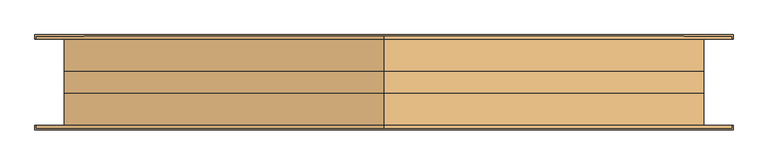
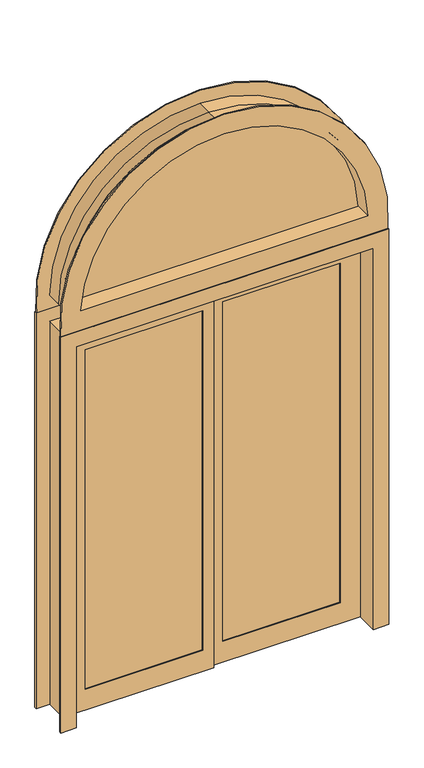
"""IFC4 building model written with IfcOpenShell, lengths in millimetres: door geometry, Pollard_Windows_Vistador Patio Doors_ATS_Half Round : AVDR6080-HRW1506."""

from ifc_helpers import new_model, si_unit, point, frame, frame_2d, origin, place, context, project, spatial, polyline, circle_curve, trimmed, segment, composite_curve, outline, extrude, faceted_brep, source, transform, mapped, element, save
from ifc_brep_helpers import plane_surface, cylinder_surface, revolved_surface, advanced_brep


def door_0cb5d929(model_context):
    return source(origin(), model_context, "Body", "SolidModel", [
        extrude(outline(composite_curve([segment(polyline([(2168.398, -737.278026), (2168.398, 737.278026)]), True, "CONTINUOUS"), segment(trimmed(circle_curve(frame_2d((2155.698, 0.0)), 737.3874), [point((2168.398, 737.278026))], [point((2893.0854, 0.0))], False, "CARTESIAN"), True, "CONTINUOUS"), segment(trimmed(circle_curve(frame_2d((2155.698, 0.0)), 737.3874), [point((2893.0854, 0.0))], [point((2168.398, -737.278026))], False, "CARTESIAN"), True, "CONTINUOUS")], self_intersect=False)), frame((0.0, -2.5, 0.0), z_axis=(0.0, 1.0, 0.0), x_axis=(0.0, 0.0, 1.0)), (0.0, 0.0, 1.0), 5.0),
        advanced_brep(
        [(734.3693044, 2.5, 2171.2514091), (0.0, 2.5, 2890.2319909), (0.0, 25.4, 2890.2319909), (734.3693044, 25.4, 2171.2514091), (747.2285428, -2.5, 2158.5514091), (0.0, -2.5, 2902.9319909), (0.0, 2.5, 2902.9319909), (747.2285428, 2.5, 2158.5514091), (734.3693044, -25.4, 2171.2514091), (0.0, -25.4, 2890.2319909), (0.0, -2.5, 2890.2319909), (734.3693044, -2.5, 2171.2514091), (-734.3693044, 25.4, 2171.2514091), (-734.3693044, 2.5, 2171.2514091), (-747.2285428, 2.5, 2158.5514091), (-747.2285428, -2.5, 2158.5514091), (-734.3693044, -2.5, 2171.2514091), (-734.3693044, -25.4, 2171.2514091), (0.0, -25.4, 2905.7854), (-750.0874, -25.4, 2155.698), (750.0874, -25.4, 2155.698), (0.0, 25.4, 2905.7854), (750.0874, 25.4, 2155.698), (-750.0874, 25.4, 2155.698)],
        [
            (0, 1, circle_curve(frame((0.0, 2.5, 2155.698), z_axis=(0.0, -1.0, 0.0), x_axis=(0.0, 0.0, 1.0)), 734.5339909)),
            (1, 2),
            (2, 3, circle_curve(frame((0.0, 25.4, 2155.698), z_axis=(0.0, 1.0, 0.0), x_axis=(0.0, 0.0, 1.0)), 734.5339909)),
            (3, 0),
            (4, 5, circle_curve(frame((0.0, -2.5, 2155.698), z_axis=(0.0, -1.0, 0.0), x_axis=(0.0, 0.0, 1.0)), 747.2339909)),
            (5, 6),
            (6, 7, circle_curve(frame((0.0, 2.5, 2155.698), z_axis=(0.0, 1.0, 0.0), x_axis=(0.0, 0.0, 1.0)), 747.2339909)),
            (7, 4),
            (8, 9, circle_curve(frame((0.0, -25.4, 2155.698), z_axis=(0.0, -1.0, 0.0), x_axis=(0.0, 0.0, 1.0)), 734.5339909)),
            (9, 10),
            (10, 11, circle_curve(frame((0.0, -2.5, 2155.698), z_axis=(0.0, 1.0, 0.0), x_axis=(0.0, 0.0, 1.0)), 734.5339909)),
            (11, 8),
            (3, 12),
            (12, 13),
            (13, 0),
            (7, 14),
            (14, 15),
            (15, 4),
            (11, 16),
            (16, 17),
            (17, 8),
            (1, 13, circle_curve(frame((0.0, 2.5, 2155.698), z_axis=(0.0, -1.0, 0.0), x_axis=(-1.0, 0.0, 0.0)), 734.5339909)),
            (12, 2, circle_curve(frame((0.0, 25.4, 2155.698), z_axis=(0.0, 1.0, 0.0), x_axis=(-1.0, 0.0, 0.0)), 734.5339909)),
            (6, 14, circle_curve(frame((0.0, 2.5, 2155.698), z_axis=(0.0, -1.0, 0.0), x_axis=(-1.0, 0.0, 0.0)), 747.2339909)),
            (5, 15, circle_curve(frame((0.0, -2.5, 2155.698), z_axis=(0.0, -1.0, 0.0), x_axis=(-1.0, 0.0, 0.0)), 747.2339909)),
            (10, 16, circle_curve(frame((0.0, -2.5, 2155.698), z_axis=(0.0, -1.0, 0.0), x_axis=(-1.0, 0.0, 0.0)), 734.5339909)),
            (9, 17, circle_curve(frame((0.0, -25.4, 2155.698), z_axis=(0.0, -1.0, 0.0), x_axis=(-1.0, 0.0, 0.0)), 734.5339909)),
            (18, 19, circle_curve(frame((0.0, -25.4, 2155.698), z_axis=(0.0, -1.0, 0.0), x_axis=(-1.0, 0.0, 0.0)), 750.0874)),
            (19, 20),
            (20, 18, circle_curve(frame((0.0, -25.4, 2155.698), z_axis=(0.0, -1.0, 0.0), x_axis=(0.0, 0.0, 1.0)), 750.0874)),
            (21, 22, circle_curve(frame((0.0, 25.4, 2155.698), z_axis=(0.0, 1.0, 0.0), x_axis=(0.0, 0.0, 1.0)), 750.0874)),
            (22, 23),
            (23, 21, circle_curve(frame((0.0, 25.4, 2155.698), z_axis=(0.0, 1.0, 0.0), x_axis=(-1.0, 0.0, 0.0)), 750.0874)),
            (21, 18),
            (20, 22),
            (19, 23),
        ],
        [
            revolved_surface(polyline([(0.0, 25.4, 2890.2319909), (0.0, 2.5, 2890.2319909)]), (0.0, 0.0, 2155.698), (0.0, 1.0, 0.0)),
            revolved_surface(polyline([(0.0, 2.5, 2902.9319908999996), (0.0, -2.5, 2902.9319908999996)]), (0.0, 0.0, 2155.698), (0.0, 1.0, 0.0)),
            revolved_surface(polyline([(0.0, -2.5, 2890.2319909), (0.0, -25.4, 2890.2319909)]), (0.0, 0.0, 2155.698), (0.0, 1.0, 0.0)),
            plane_surface(frame((734.3693044, 25.4, 2171.2514091), z_axis=(0.0, 0.0, 1.0), x_axis=(-1.0, 0.0, 0.0))),
            plane_surface(frame((747.2285428, 2.5, 2158.5514091), z_axis=(0.0, 0.0, 1.0), x_axis=(-1.0, 0.0, 0.0))),
            plane_surface(frame((734.3693044, -2.5, 2171.2514091), z_axis=(0.0, 0.0, 1.0), x_axis=(-1.0, 0.0, 0.0))),
            revolved_surface(polyline([(-734.5339909, 25.4, 2155.698), (-734.5339909, 2.5, 2155.698)]), (0.0, 0.0, 2155.698), (0.0, 1.0, 0.0)),
            plane_surface(frame((0.0, 2.5, 2155.698), z_axis=(0.0, -1.0, 0.0), x_axis=(-1.0, 0.0, 0.0))),
            revolved_surface(polyline([(-747.2339909, 2.5, 2155.698), (-747.2339909, -2.5, 2155.698)]), (0.0, 0.0, 2155.698), (0.0, 1.0, 0.0)),
            plane_surface(frame((0.0, -2.5, 2155.698), z_axis=(0.0, 1.0, 0.0), x_axis=(-1.0, 0.0, 0.0))),
            revolved_surface(polyline([(-734.5339909, -2.5, 2155.698), (-734.5339909, -25.4, 2155.698)]), (0.0, 0.0, 2155.698), (0.0, 1.0, 0.0)),
            plane_surface(frame((0.0, -25.4, 2155.698), z_axis=(0.0, -1.0, 0.0), x_axis=(-1.0, 0.0, 0.0))),
            plane_surface(frame((0.0, 25.4, 2155.698), z_axis=(0.0, 1.0, 0.0), x_axis=(-1.0, 0.0, 0.0))),
            cylinder_surface(frame((0.0, 0.0, 2155.698), z_axis=(0.0, 1.0, 0.0), x_axis=(0.0, 0.0, 1.0)), 750.0874),
            plane_surface(frame((750.0874, -25.4, 2155.698), z_axis=(0.0, 0.0, -1.0), x_axis=(-1.0, 0.0, 0.0))),
            cylinder_surface(frame((0.0, 0.0, 2155.698), z_axis=(0.0, 1.0, 0.0), x_axis=(-1.0, 0.0, 0.0)), 750.0874),
        ],
        [
            (0, [[1, 2, 3, 4]]),
            (1, [[5, 6, 7, 8]]),
            (2, [[9, 10, 11, 12]]),
            (3, [[-4, 13, 14, 15]]),
            (4, [[-8, 16, 17, 18]]),
            (5, [[-12, 19, 20, 21]]),
            (6, [[22, -14, 23, -2]]),
            (7, [[24, -16, -7], [-1, -15, -22]]),
            (8, [[25, -17, -24, -6]]),
            (9, [[-5, -18, -25], [26, -19, -11]]),
            (10, [[27, -20, -26, -10]]),
            (11, [[28, 29, 30], [-9, -21, -27]]),
            (12, [[31, 32, 33], [-23, -13, -3]]),
            (13, [[-31, 34, -30, 35]]),
            (14, [[-35, -29, 36, -32]]),
            (15, [[-33, -36, -28, -34]]),
        ],
    ),
        advanced_brep(
        [(815.4394697, 107.95, 2087.499), (0.0, 107.95, 2973.9844), (0.0, 101.6, 2973.9844), (815.4394697, 101.6, 2087.499), (716.306733, 25.4, 2188.718), (0.0, 25.4, 2872.7654), (0.0, 107.95, 2872.7654), (716.306733, 107.95, 2188.718), (737.278026, -25.4, 2168.398), (0.0, -25.4, 2893.0854), (0.0, 25.4, 2893.0854), (737.278026, 25.4, 2168.398), (716.306733, -107.95, 2188.718), (0.0, -107.95, 2872.7654), (0.0, -25.4, 2872.7654), (716.306733, -25.4, 2188.718), (815.4394697, -101.6, 2087.499), (0.0, -101.6, 2973.9844), (0.0, -107.95, 2973.9844), (815.4394697, -107.95, 2087.499), (750.0874, 101.6, 2155.698), (0.0, 101.6, 2905.7854), (0.0, -101.6, 2905.7854), (750.0874, -101.6, 2155.698), (-815.4394697, 101.6, 2087.499), (-815.4394697, 107.95, 2087.499), (-716.306733, 107.95, 2188.718), (-716.306733, 25.4, 2188.718), (-737.278026, 25.4, 2168.398), (-737.278026, -25.4, 2168.398), (-716.306733, -25.4, 2188.718), (-716.306733, -107.95, 2188.718), (-815.4394697, -107.95, 2087.499), (-815.4394697, -101.6, 2087.499), (-750.0874, -101.6, 2155.698), (-750.0874, 101.6, 2155.698)],
        [
            (0, 1, circle_curve(frame((0.0, 107.95, 2155.698), z_axis=(0.0, -1.0, 0.0), x_axis=(0.0, 0.0, 1.0)), 818.2864)),
            (1, 2),
            (2, 3, circle_curve(frame((0.0, 101.6, 2155.698), z_axis=(0.0, 1.0, 0.0), x_axis=(0.0, 0.0, 1.0)), 818.2864)),
            (3, 0),
            (4, 5, circle_curve(frame((0.0, 25.4, 2155.698), z_axis=(0.0, -1.0, 0.0), x_axis=(0.0, 0.0, 1.0)), 717.0674)),
            (5, 6),
            (6, 7, circle_curve(frame((0.0, 107.95, 2155.698), z_axis=(0.0, 1.0, 0.0), x_axis=(0.0, 0.0, 1.0)), 717.0674)),
            (7, 4),
            (8, 9, circle_curve(frame((0.0, -25.4, 2155.698), z_axis=(0.0, -1.0, 0.0), x_axis=(0.0, 0.0, 1.0)), 737.3874)),
            (9, 10),
            (10, 11, circle_curve(frame((0.0, 25.4, 2155.698), z_axis=(0.0, 1.0, 0.0), x_axis=(0.0, 0.0, 1.0)), 737.3874)),
            (11, 8),
            (12, 13, circle_curve(frame((0.0, -107.95, 2155.698), z_axis=(0.0, -1.0, 0.0), x_axis=(0.0, 0.0, 1.0)), 717.0674)),
            (13, 14),
            (14, 15, circle_curve(frame((0.0, -25.4, 2155.698), z_axis=(0.0, 1.0, 0.0), x_axis=(0.0, 0.0, 1.0)), 717.0674)),
            (15, 12),
            (16, 17, circle_curve(frame((0.0, -101.6, 2155.698), z_axis=(0.0, -1.0, 0.0), x_axis=(0.0, 0.0, 1.0)), 818.2864)),
            (17, 18),
            (18, 19, circle_curve(frame((0.0, -107.95, 2155.698), z_axis=(0.0, 1.0, 0.0), x_axis=(0.0, 0.0, 1.0)), 818.2864)),
            (19, 16),
            (20, 21, circle_curve(frame((0.0, 101.6, 2155.698), z_axis=(0.0, -1.0, 0.0), x_axis=(0.0, 0.0, 1.0)), 750.0874)),
            (21, 22),
            (22, 23, circle_curve(frame((0.0, -101.6, 2155.698), z_axis=(0.0, 1.0, 0.0), x_axis=(0.0, 0.0, 1.0)), 750.0874)),
            (23, 20),
            (3, 24),
            (24, 25),
            (25, 0),
            (7, 26),
            (26, 27),
            (27, 4),
            (11, 28),
            (28, 29),
            (29, 8),
            (15, 30),
            (30, 31),
            (31, 12),
            (19, 32),
            (32, 33),
            (33, 16),
            (23, 34),
            (34, 35),
            (35, 20),
            (2, 24, circle_curve(frame((0.0, 101.6, 2155.698), z_axis=(0.0, -1.0, 0.0), x_axis=(-1.0, 0.0, 0.0)), 818.2864)),
            (35, 21, circle_curve(frame((0.0, 101.6, 2155.698), z_axis=(0.0, 1.0, 0.0), x_axis=(-1.0, 0.0, 0.0)), 750.0874)),
            (1, 25, circle_curve(frame((0.0, 107.95, 2155.698), z_axis=(0.0, -1.0, 0.0), x_axis=(-1.0, 0.0, 0.0)), 818.2864)),
            (6, 26, circle_curve(frame((0.0, 107.95, 2155.698), z_axis=(0.0, -1.0, 0.0), x_axis=(-1.0, 0.0, 0.0)), 717.0674)),
            (5, 27, circle_curve(frame((0.0, 25.4, 2155.698), z_axis=(0.0, -1.0, 0.0), x_axis=(-1.0, 0.0, 0.0)), 717.0674)),
            (10, 28, circle_curve(frame((0.0, 25.4, 2155.698), z_axis=(0.0, -1.0, 0.0), x_axis=(-1.0, 0.0, 0.0)), 737.3874)),
            (9, 29, circle_curve(frame((0.0, -25.4, 2155.698), z_axis=(0.0, -1.0, 0.0), x_axis=(-1.0, 0.0, 0.0)), 737.3874)),
            (14, 30, circle_curve(frame((0.0, -25.4, 2155.698), z_axis=(0.0, -1.0, 0.0), x_axis=(-1.0, 0.0, 0.0)), 717.0674)),
            (13, 31, circle_curve(frame((0.0, -107.95, 2155.698), z_axis=(0.0, -1.0, 0.0), x_axis=(-1.0, 0.0, 0.0)), 717.0674)),
            (18, 32, circle_curve(frame((0.0, -107.95, 2155.698), z_axis=(0.0, -1.0, 0.0), x_axis=(-1.0, 0.0, 0.0)), 818.2864)),
            (17, 33, circle_curve(frame((0.0, -101.6, 2155.698), z_axis=(0.0, -1.0, 0.0), x_axis=(-1.0, 0.0, 0.0)), 818.2864)),
            (22, 34, circle_curve(frame((0.0, -101.6, 2155.698), z_axis=(0.0, -1.0, 0.0), x_axis=(-1.0, 0.0, 0.0)), 750.0874)),
        ],
        [
            cylinder_surface(frame((0.0, -101.6, 2155.698), z_axis=(0.0, 1.0, 0.0), x_axis=(0.0, 0.0, 1.0)), 818.2864),
            revolved_surface(polyline([(0.0, 107.95000000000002, 2872.7653999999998), (0.0, 25.400000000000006, 2872.7653999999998)]), (0.0, -101.6, 2155.698), (0.0, 1.0, 0.0)),
            revolved_surface(polyline([(0.0, 25.400000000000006, 2893.0854), (0.0, -25.400000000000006, 2893.0854)]), (0.0, -101.6, 2155.698), (0.0, 1.0, 0.0)),
            revolved_surface(polyline([(0.0, -25.400000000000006, 2872.7653999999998), (0.0, -107.95, 2872.7653999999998)]), (0.0, -101.6, 2155.698), (0.0, 1.0, 0.0)),
            cylinder_surface(frame((0.0, -101.6, 2155.698), z_axis=(0.0, 1.0, 0.0), x_axis=(0.0, 0.0, 1.0)), 750.0874),
            plane_surface(frame((815.4394697, 101.6, 2087.499), z_axis=(0.0, 0.0, -1.0), x_axis=(-1.0, 0.0, 0.0))),
            plane_surface(frame((716.306733, 107.95, 2188.718), z_axis=(0.0, 0.0, 1.0), x_axis=(-1.0, 0.0, 0.0))),
            plane_surface(frame((737.278026, 25.4, 2168.398), z_axis=(0.0, 0.0, 1.0), x_axis=(-1.0, 0.0, 0.0))),
            plane_surface(frame((716.306733, -25.4, 2188.718), z_axis=(0.0, 0.0, 1.0), x_axis=(-1.0, 0.0, 0.0))),
            plane_surface(frame((815.4394697, -107.95, 2087.499), z_axis=(0.0, 0.0, -1.0), x_axis=(-1.0, 0.0, 0.0))),
            plane_surface(frame((750.0874, -101.6, 2155.698), z_axis=(0.0, 0.0, -1.0), x_axis=(-1.0, 0.0, 0.0))),
            plane_surface(frame((0.0, 101.6, 2155.698), z_axis=(0.0, -1.0, 0.0), x_axis=(-1.0, 0.0, 0.0))),
            cylinder_surface(frame((0.0, -101.6, 2155.698), z_axis=(0.0, 1.0, 0.0), x_axis=(-1.0, 0.0, 0.0)), 818.2864),
            plane_surface(frame((0.0, 107.95, 2155.698), z_axis=(0.0, 1.0, 0.0), x_axis=(-1.0, 0.0, 0.0))),
            revolved_surface(polyline([(-717.0674, 107.95000000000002, 2155.698), (-717.0674, 25.400000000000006, 2155.698)]), (0.0, -101.6, 2155.698), (0.0, 1.0, 0.0)),
            plane_surface(frame((0.0, 25.4, 2155.698), z_axis=(0.0, -1.0, 0.0), x_axis=(-1.0, 0.0, 0.0))),
            revolved_surface(polyline([(-737.3874, 25.400000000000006, 2155.698), (-737.3874, -25.400000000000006, 2155.698)]), (0.0, -101.6, 2155.698), (0.0, 1.0, 0.0)),
            plane_surface(frame((0.0, -25.4, 2155.698), z_axis=(0.0, 1.0, 0.0), x_axis=(-1.0, 0.0, 0.0))),
            revolved_surface(polyline([(-717.0674, -25.400000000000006, 2155.698), (-717.0674, -107.95, 2155.698)]), (0.0, -101.6, 2155.698), (0.0, 1.0, 0.0)),
            plane_surface(frame((0.0, -107.95, 2155.698), z_axis=(0.0, -1.0, 0.0), x_axis=(-1.0, 0.0, 0.0))),
            plane_surface(frame((0.0, -101.6, 2155.698), z_axis=(0.0, 1.0, 0.0), x_axis=(-1.0, 0.0, 0.0))),
            cylinder_surface(frame((0.0, -101.6, 2155.698), z_axis=(0.0, 1.0, 0.0), x_axis=(-1.0, 0.0, 0.0)), 750.0874),
        ],
        [
            (0, [[1, 2, 3, 4]]),
            (1, [[5, 6, 7, 8]]),
            (2, [[9, 10, 11, 12]]),
            (3, [[13, 14, 15, 16]]),
            (0, [[17, 18, 19, 20]]),
            (4, [[21, 22, 23, 24]]),
            (5, [[-4, 25, 26, 27]]),
            (6, [[-8, 28, 29, 30]]),
            (7, [[-12, 31, 32, 33]]),
            (8, [[-16, 34, 35, 36]]),
            (9, [[-20, 37, 38, 39]]),
            (10, [[-24, 40, 41, 42]]),
            (11, [[43, -25, -3], [-21, -42, 44]]),
            (12, [[45, -26, -43, -2]]),
            (13, [[-1, -27, -45], [46, -28, -7]]),
            (14, [[47, -29, -46, -6]]),
            (15, [[48, -31, -11], [-5, -30, -47]]),
            (16, [[49, -32, -48, -10]]),
            (17, [[-9, -33, -49], [50, -34, -15]]),
            (18, [[51, -35, -50, -14]]),
            (19, [[52, -37, -19], [-13, -36, -51]]),
            (12, [[53, -38, -52, -18]]),
            (20, [[-17, -39, -53], [54, -40, -23]]),
            (21, [[-44, -41, -54, -22]]),
        ],
    ),
        extrude(outline(polyline([(-54.991, -10.0399998), (-640.1054, -10.0399998), (-640.1054, -4.9599998), (-54.991, -4.9599998), (-54.991, -10.0399998)])), frame((0.0, 0.0, 109.982), z_axis=(0.0, 0.0, 1.0), x_axis=(1.0, 0.0, 0.0)), (0.0, 0.0, 1.0), 1790.586),
        extrude(outline(polyline([(54.991, 10.0399998), (640.1054, 10.0399998), (640.1054, 4.9599998), (54.991, 4.9599998), (54.991, 10.0399998)])), frame((0.0, 0.0, 109.982), z_axis=(0.0, 0.0, 1.0), x_axis=(1.0, 0.0, 0.0)), (0.0, 0.0, 1.0), 1790.586),
        extrude(outline(polyline([(2010.55, 741.3374), (2010.55, 0.0), (0.0, 0.0), (0.0, 741.3374), (2010.55, 741.3374)]), holes=[polyline([(109.982, 640.1054), (109.982, 54.991), (1900.568, 54.991), (1900.568, 640.1054), (109.982, 640.1054)])]), frame((0.0, 0.0, 0.0), z_axis=(0.0, 1.0, 0.0), x_axis=(0.0, 0.0, 1.0)), (0.0, 0.0, 1.0), 14.9999996),
        extrude(outline(polyline([(2010.55, -741.3374), (0.0, -741.3374), (0.0, 0.0), (2010.55, 0.0), (2010.55, -741.3374)]), holes=[polyline([(1900.568, -640.1054), (1900.568, -54.991), (109.982, -54.991), (109.982, -640.1054), (1900.568, -640.1054)])]), frame((0.0, -14.9999996, 0.0), z_axis=(0.0, 1.0, 0.0), x_axis=(0.0, 0.0, 1.0)), (0.0, 0.0, 1.0), 14.9999996),
        faceted_brep([(818.2864, 111.6, 0.0), (818.2864, 101.6, 0.0), (750.0874, 101.6, 0.0), (750.0874, -101.6, 0.0), (818.2864, -101.6, 0.0), (818.2864, -111.6, 0.0), (741.3374, -111.6, 0.0), (741.3374, 111.6, 0.0), (818.2864, 111.6, 2087.499), (818.2864, 101.6, 2087.499), (-818.2864, 101.6, 2087.499), (-818.2864, 101.6, 0.0), (-750.0874, 101.6, 0.0), (-750.0874, 101.6, 2019.3), (750.0874, 101.6, 2019.3), (750.0874, -101.6, 2019.3), (-750.0874, -101.6, 2019.3), (-750.0874, -101.6, 0.0), (-818.2864, -101.6, 0.0), (-818.2864, -101.6, 2087.499), (818.2864, -101.6, 2087.499), (818.2864, -111.6, 2087.499), (-818.2864, -111.6, 2087.499), (-818.2864, -111.6, 0.0), (-741.3374, -111.6, 0.0), (-741.3374, -111.6, 2010.55), (741.3374, -111.6, 2010.55), (741.3374, 111.6, 2010.55), (-741.3374, 111.6, 2010.55), (-741.3374, 111.6, 0.0), (-818.2864, 111.6, 0.0), (-818.2864, 111.6, 2087.499)], [[[0, 1, 2, 3, 4, 5, 6, 7]], [[1, 0, 8, 9]], [[2, 1, 9, 10, 11, 12, 13, 14]], [[2, 14, 15, 3]], [[4, 3, 15, 16, 17, 18, 19, 20]], [[5, 4, 20, 21]], [[6, 5, 21, 22, 23, 24, 25, 26]], [[6, 26, 27, 7]], [[0, 7, 27, 28, 29, 30, 31, 8]], [[30, 29, 24, 23, 18, 17, 12, 11]], [[28, 25, 24, 29]], [[22, 19, 18, 23]], [[16, 13, 12, 17]], [[10, 31, 30, 11]], [[9, 8, 31, 10]], [[27, 26, 25, 28]], [[15, 14, 13, 16]], [[21, 20, 19, 22]]]),
    ])


if __name__ == "__main__":
    model = new_model("IFC4")
    model_context = context("Model", 3, world=origin())
    ifc_project = project(units=[si_unit("LENGTHUNIT", "METRE", prefix="MILLI")], contexts=[model_context])
    site = spatial("IfcSite", under=ifc_project)
    building = spatial("IfcBuilding", under=site)
    placement = place(None, origin())
    door_shape = door_0cb5d929(model_context)
    element("IfcDoor", 1, ObjectType="Pollard_Windows_Vistador Patio Doors_ATS_Half Round : AVDR6080-HRW1506", at=placement, inside=building, context=model_context, shape_type="MappedRepresentation", body=[
        mapped(door_shape, transform((0.0, 0.0, 0.0), x_axis=(1.0, 0.0, 0.0), y_axis=(0.0, 1.0, 0.0), z_axis=(0.0, 0.0, 1.0))),
    ])
    save(model, "model.ifc")
